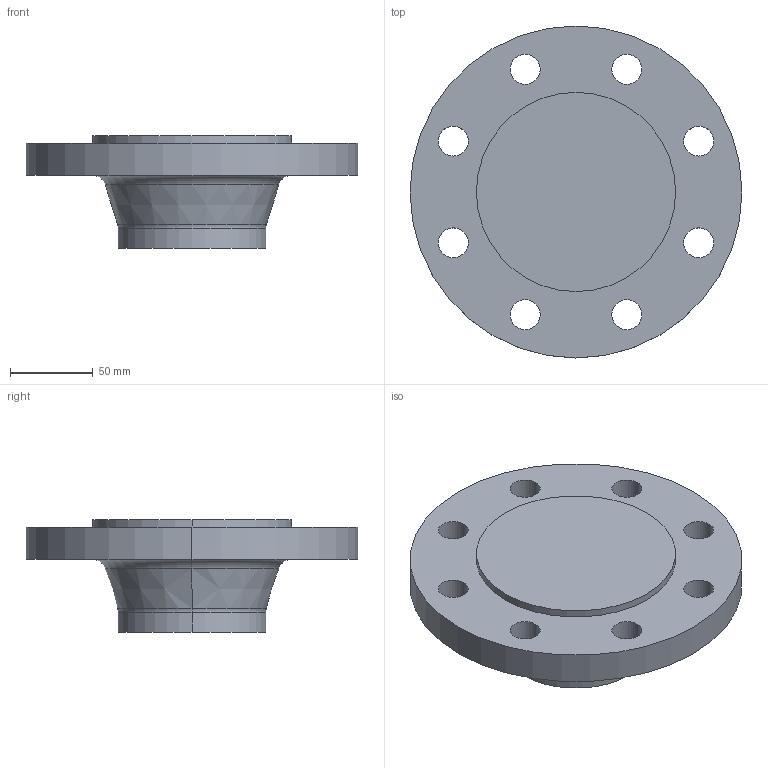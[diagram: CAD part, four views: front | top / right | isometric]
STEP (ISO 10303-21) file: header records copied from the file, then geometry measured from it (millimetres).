
FILE_DESCRIPTION (( 'STEP AP214' ), '1' );
FILE_NAME ('PN40 DN80 Type 21(ii) - Type E Face.STEP', '2019-01-01T19:29:30', ( '' ), ( '' ), 'SwSTEP 2.0', 'SolidWorks 2019', '' );
FILE_SCHEMA (( 'AUTOMOTIVE_DESIGN' ));
Length unit declared in the file: millimetre
Products named in the file (1): PN40 DN80 Type 21(ii) - Type E Face
Bounding box: 200 x 200 x 68 mm (x, y, z)
Volume: 943787.4 mm3; surface area: 91680.9 mm2
Topology: 1 solids, 1 shells, 32 faces, 78 edges, 50 vertices
Faces by surface type: cylinder 22, torus 4, plane 4, cone 2
Entity records: 1034 total; most frequent: DIRECTION 198, CARTESIAN_POINT 161, ORIENTED_EDGE 156, AXIS2_PLACEMENT_3D 87, EDGE_CURVE 78, CIRCLE 54, EDGE_LOOP 50, VERTEX_POINT 50
